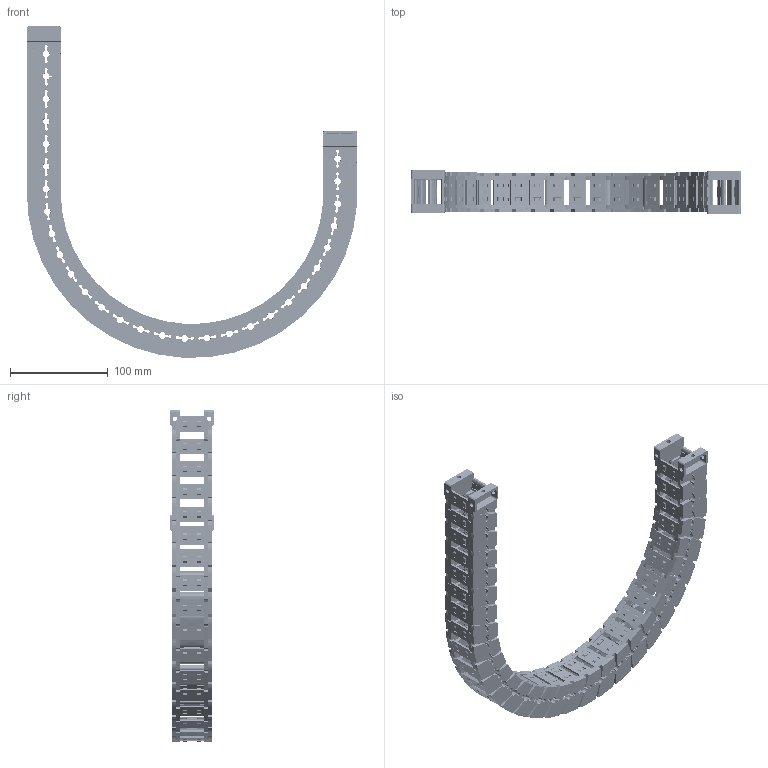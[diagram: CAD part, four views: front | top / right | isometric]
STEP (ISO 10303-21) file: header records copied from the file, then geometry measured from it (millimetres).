
FILE_DESCRIPTION((''),'2;1');
FILE_NAME('JY-28X25-R150_ASM','2026-03-25T20:43:20',('admin'),(''),'CREO PARAMETRIC BY PTC INC, 2021023','CREO PARAMETRIC BY PTC INC, 2021023','');
FILE_SCHEMA(('CONFIG_CONTROL_DESIGN'));
Length unit declared in the file: millimetre
Products named in the file (11): 28XL-L; 25-35XL-YP; 28XL-R; ASM0001_ASM; 28-LTT-A-L; 28-LTT-A-R; 28XL-LTT-A_ASM; 28-LTT-B-L; 28-LTT-B-R; 28XL-LTT-B_ASM; JY-28X25-R150_ASM
Assembly tree (42 placements, depth 3):
  JY-28X25-R150_ASM
    ASM0001_ASM  x28
      28XL-L
      25-35XL-YP
      28XL-R
    28XL-LTT-A_ASM
      28-LTT-A-L
      25-35XL-YP  x2
      28-LTT-A-R
    28XL-LTT-B_ASM
      28-LTT-B-L
      25-35XL-YP  x2
      28-LTT-B-R
Bounding box: 337.23 x 44 x 338.94 mm (x, y, z)
Volume: 377731.6 mm3; surface area: 275875.5 mm2
Topology: 120 solids, 120 shells, 9750 faces, 28988 edges, 19358 vertices
Faces by surface type: plane 6392, cone 1766, cylinder 1394, bspline 198
Entity records: 29175 total; most frequent: CARTESIAN_POINT 9500, ORIENTED_EDGE 4352, DIRECTION 3675, EDGE_CURVE 2176, VERTEX_POINT 1454, VECTOR 1365, LINE 1365, AXIS2_PLACEMENT_3D 1155
